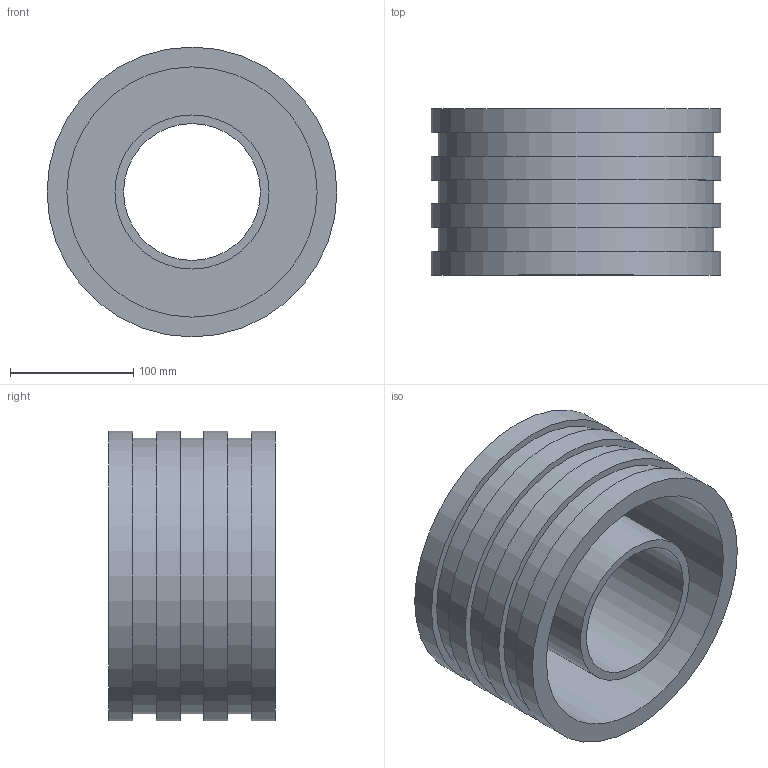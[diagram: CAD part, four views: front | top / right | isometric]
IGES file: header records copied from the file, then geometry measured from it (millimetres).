
Global section: file name: 37020125.ipt; native system: Autodesk Inventor 2015; preprocessor: unknown; author: Кирилл,,11,0; organization: 20170830.190241; date: 20171106.093312; units: millimetre
Bounding box: 235 x 135 x 235 mm (x, y, z)
Volume: 1785504.3 mm3; surface area: 366548.4 mm2
Topology: 1 solids, 1 shells, 20 faces, 34 edges, 24 vertices
Faces by surface type: plane 10, cylinder 8, revolution 2
Full cylindrical faces by diameter (mm): 125 x1, 223.25 x3, 235 x4
